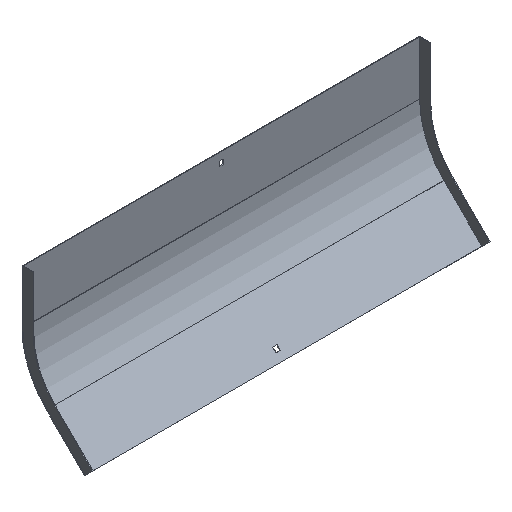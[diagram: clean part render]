
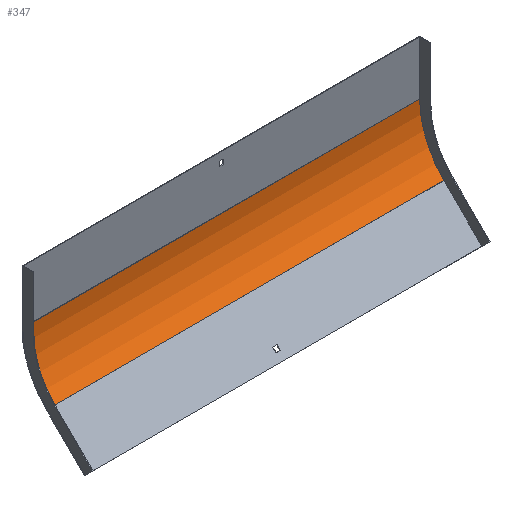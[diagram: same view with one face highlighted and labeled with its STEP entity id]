
A CAD part, isometric view. The second image highlights one B-rep face of the part: STEP entity #347.
In plain terms, the highlighted cylindrical face has radius 125 mm (diameter 250 mm), a partial arc.
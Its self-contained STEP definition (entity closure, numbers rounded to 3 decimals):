
#7 = DIRECTION ( 'NONE',  ( -1., 0., 0. ) ) ;
#66 = LINE ( 'NONE', #461, #507 ) ;
#71 = AXIS2_PLACEMENT_3D ( 'NONE', #738, #809, #472 ) ;
#89 = DIRECTION ( 'NONE',  ( -1., 0., 0. ) ) ;
#101 = CARTESIAN_POINT ( 'NONE',  ( 300., -1., -81.421 ) ) ;
#151 = EDGE_CURVE ( 'NONE', #652, #390, #755, .T. ) ;
#152 = VERTEX_POINT ( 'NONE', #207 ) ;
#164 = DIRECTION ( 'NONE',  ( 1., 0., 0. ) ) ;
#207 = CARTESIAN_POINT ( 'NONE',  ( 300., -37.612, -169.809 ) ) ;
#219 = CYLINDRICAL_SURFACE ( 'NONE', #783, 125. ) ;
#231 = CARTESIAN_POINT ( 'NONE',  ( -300., -37.612, -169.809 ) ) ;
#262 = ORIENTED_EDGE ( 'NONE', *, *, #581, .T. ) ;
#277 = LINE ( 'NONE', #397, #769 ) ;
#284 = AXIS2_PLACEMENT_3D ( 'NONE', #496, #164, #486 ) ;
#321 = VERTEX_POINT ( 'NONE', #101 ) ;
#347 = ADVANCED_FACE ( 'NONE', ( #817 ), #219, .F. ) ;
#390 = VERTEX_POINT ( 'NONE', #852 ) ;
#397 = CARTESIAN_POINT ( 'NONE',  ( 301., -37.612, -169.809 ) ) ;
#461 = CARTESIAN_POINT ( 'NONE',  ( 301., -1., -81.421 ) ) ;
#472 = DIRECTION ( 'NONE',  ( 0., 0., 1. ) ) ;
#486 = DIRECTION ( 'NONE',  ( 0., 0., 1. ) ) ;
#489 = CARTESIAN_POINT ( 'NONE',  ( 301., -126., -81.421 ) ) ;
#496 = CARTESIAN_POINT ( 'NONE',  ( 300., -126., -81.421 ) ) ;
#507 = VECTOR ( 'NONE', #664, 1000. ) ;
#546 = ORIENTED_EDGE ( 'NONE', *, *, #722, .T. ) ;
#569 = EDGE_CURVE ( 'NONE', #152, #652, #277, .T. ) ;
#578 = CIRCLE ( 'NONE', #284, 125. ) ;
#581 = EDGE_CURVE ( 'NONE', #321, #390, #66, .T. ) ;
#622 = EDGE_LOOP ( 'NONE', ( #759, #698, #546, #262 ) ) ;
#652 = VERTEX_POINT ( 'NONE', #231 ) ;
#664 = DIRECTION ( 'NONE',  ( -1., 0., 0. ) ) ;
#698 = ORIENTED_EDGE ( 'NONE', *, *, #569, .F. ) ;
#722 = EDGE_CURVE ( 'NONE', #152, #321, #578, .T. ) ;
#738 = CARTESIAN_POINT ( 'NONE',  ( -300., -126., -81.421 ) ) ;
#754 = DIRECTION ( 'NONE',  ( 0., 0., 1. ) ) ;
#755 = CIRCLE ( 'NONE', #71, 125. ) ;
#759 = ORIENTED_EDGE ( 'NONE', *, *, #151, .F. ) ;
#769 = VECTOR ( 'NONE', #7, 1000. ) ;
#783 = AXIS2_PLACEMENT_3D ( 'NONE', #489, #89, #754 ) ;
#809 = DIRECTION ( 'NONE',  ( 1., 0., 0. ) ) ;
#817 = FACE_OUTER_BOUND ( 'NONE', #622, .T. ) ;
#852 = CARTESIAN_POINT ( 'NONE',  ( -300., -1., -81.421 ) ) ;
